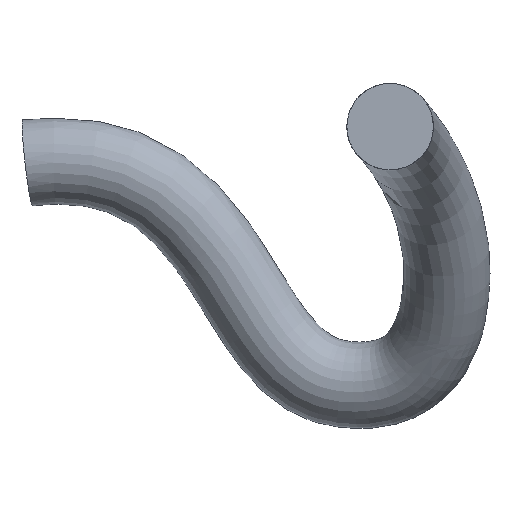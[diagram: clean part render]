
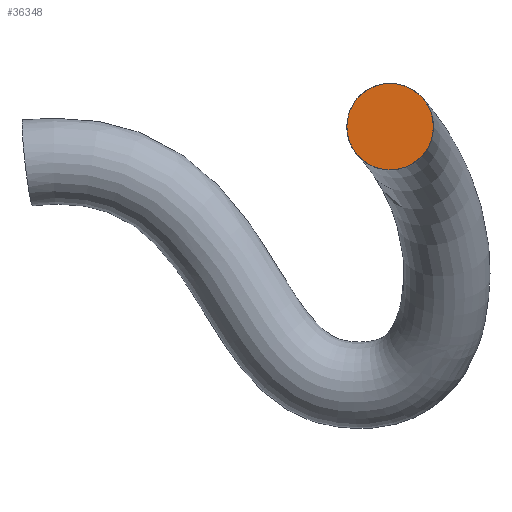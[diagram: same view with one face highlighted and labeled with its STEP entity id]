
A CAD part, front view. The second image highlights one B-rep face of the part: STEP entity #36348.
In plain terms, the highlighted planar face has unit normal (0, -1, 0).
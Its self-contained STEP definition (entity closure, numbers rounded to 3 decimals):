
#74 = CARTESIAN_POINT ( 'NONE',  ( 2139.998, -84.598, 2567. ) ) ;
#1483 = DIRECTION ( 'NONE',  ( -1., 0., 0. ) ) ;
#10568 = FACE_OUTER_BOUND ( 'NONE', #44652, .T. ) ;
#10617 = EDGE_CURVE ( 'NONE', #17195, #17195, #26053, .T. ) ;
#17195 = VERTEX_POINT ( 'NONE', #31391 ) ;
#17871 = DIRECTION ( 'NONE',  ( -1., 0., 0. ) ) ;
#21534 = DIRECTION ( 'NONE',  ( 0., 1., 0. ) ) ;
#24552 = AXIS2_PLACEMENT_3D ( 'NONE', #74, #21534, #17871 ) ;
#24736 = PLANE ( 'NONE',  #24552 ) ;
#26053 = CIRCLE ( 'NONE', #44953, 43. ) ;
#27093 = ORIENTED_EDGE ( 'NONE', *, *, #10617, .F. ) ;
#29143 = DIRECTION ( 'NONE',  ( 0., 1., 0. ) ) ;
#31391 = CARTESIAN_POINT ( 'NONE',  ( 2096.998, -84.598, 2567. ) ) ;
#31428 = CARTESIAN_POINT ( 'NONE',  ( 2139.998, -84.598, 2567. ) ) ;
#36348 = ADVANCED_FACE ( 'NONE', ( #10568 ), #24736, .F. ) ;
#44652 = EDGE_LOOP ( 'NONE', ( #27093 ) ) ;
#44953 = AXIS2_PLACEMENT_3D ( 'NONE', #31428, #29143, #1483 ) ;
